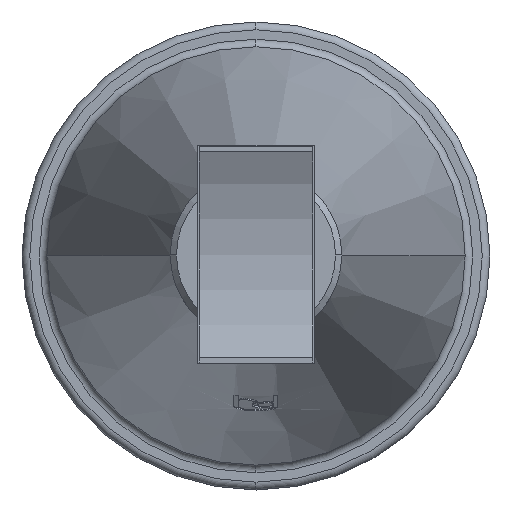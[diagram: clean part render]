
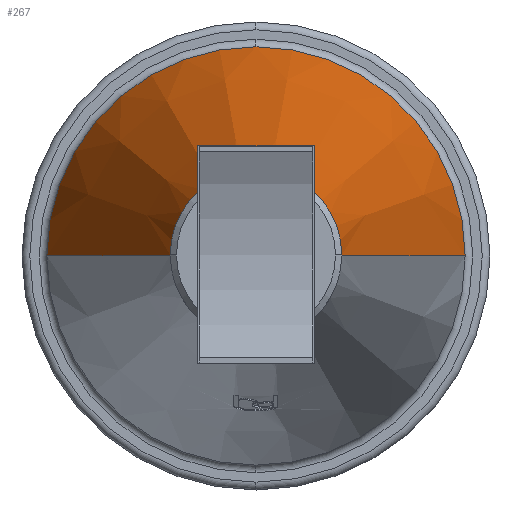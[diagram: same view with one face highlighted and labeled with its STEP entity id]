
A CAD part, top view. The second image highlights one B-rep face of the part: STEP entity #267.
In plain terms, the highlighted conical face has half-angle 13.35 degrees and reference radius 94.544 mm.
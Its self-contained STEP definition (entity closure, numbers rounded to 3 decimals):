
#267=ADVANCED_FACE('',(#585),#586,.T.);
#585=FACE_OUTER_BOUND('',#990,.T.);
#586=CONICAL_SURFACE('',#991,94.544,0.233);
#990=EDGE_LOOP('',(#1596,#1597,#1598,#1599,#1600));
#991=AXIS2_PLACEMENT_3D('',#1601,#1602,#1603);
#1596=ORIENTED_EDGE('',*,*,#2325,.T.);
#1597=ORIENTED_EDGE('',*,*,#2441,.F.);
#1598=ORIENTED_EDGE('',*,*,#2306,.F.);
#1599=ORIENTED_EDGE('',*,*,#2327,.T.);
#1600=ORIENTED_EDGE('',*,*,#2442,.T.);
#1601=CARTESIAN_POINT('',(519.775,616.496,-116.327));
#1602=DIRECTION('',(0.,0.,-1.0));
#1603=DIRECTION('',(1.0,0.,0.));
#2306=EDGE_CURVE('',#2721,#2723,#2724,.T.);
#2325=EDGE_CURVE('',#2756,#2757,#2758,.T.);
#2327=EDGE_CURVE('',#2721,#2759,#2761,.T.);
#2441=EDGE_CURVE('',#2723,#2757,#2934,.T.);
#2442=EDGE_CURVE('',#2759,#2756,#2935,.T.);
#2721=VERTEX_POINT('',#3305);
#2723=VERTEX_POINT('',#3307);
#2724=CIRCLE('',#3308,134.087);
#2756=VERTEX_POINT('',#3371);
#2757=VERTEX_POINT('',#3372);
#2758=LINE('',#3373,#3374);
#2759=VERTEX_POINT('',#3375);
#2761=LINE('',#3377,#3378);
#2934=CIRCLE('',#3933,134.087);
#2935=CIRCLE('',#3934,55.0);
#3305=CARTESIAN_POINT('',(385.688,616.496,-282.963));
#3307=CARTESIAN_POINT('',(519.775,750.583,-282.963));
#3308=AXIS2_PLACEMENT_3D('',#4496,#4497,#4498);
#3371=CARTESIAN_POINT('',(574.775,616.496,50.308));
#3372=CARTESIAN_POINT('',(653.862,616.496,-282.963));
#3373=CARTESIAN_POINT('',(614.319,616.496,-116.327));
#3374=VECTOR('',#4520,1.0);
#3375=CARTESIAN_POINT('',(464.775,616.496,50.308));
#3377=CARTESIAN_POINT('',(425.231,616.496,-116.327));
#3378=VECTOR('',#4524,1.0);
#3933=AXIS2_PLACEMENT_3D('',#4632,#4633,#4634);
#3934=AXIS2_PLACEMENT_3D('',#4635,#4636,#4637);
#4496=CARTESIAN_POINT('',(519.775,616.496,-282.963));
#4497=DIRECTION('',(0.,0.,-1.0));
#4498=DIRECTION('',(1.0,0.,0.));
#4520=DIRECTION('',(0.231,0.,-0.973));
#4524=DIRECTION('',(0.231,0.,0.973));
#4632=CARTESIAN_POINT('',(519.775,616.496,-282.963));
#4633=DIRECTION('',(0.,0.,-1.0));
#4634=DIRECTION('',(1.0,0.,0.));
#4635=CARTESIAN_POINT('',(519.775,616.496,50.308));
#4636=DIRECTION('',(0.,0.,-1.0));
#4637=DIRECTION('',(1.0,0.,0.));
